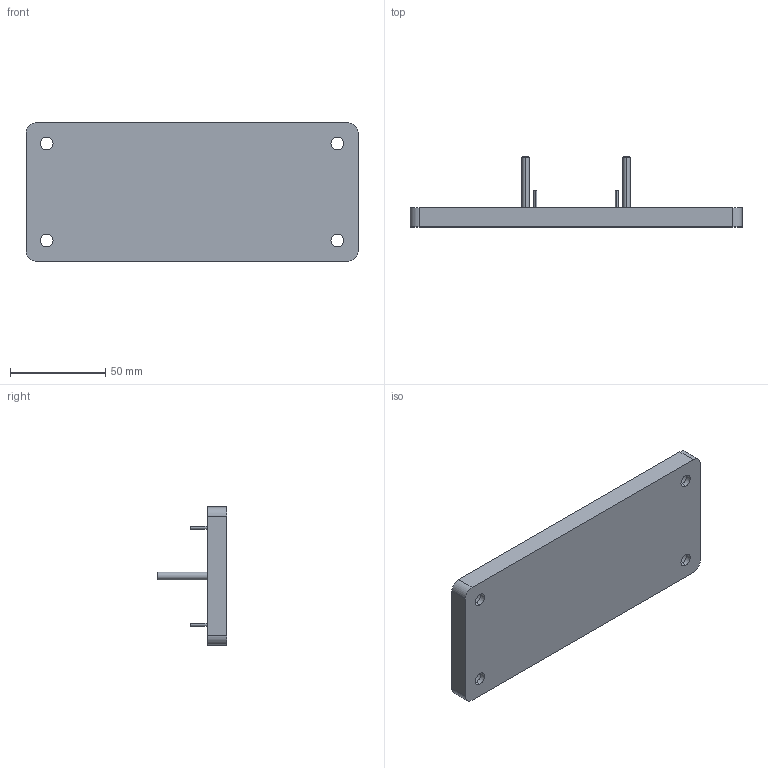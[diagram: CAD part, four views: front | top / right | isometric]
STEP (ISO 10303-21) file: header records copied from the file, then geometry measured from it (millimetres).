
FILE_DESCRIPTION (( 'STEP AP214' ), '1' );
FILE_NAME ('GM3 Press In Fixturing Design Dowel Base.STEP', '2022-03-08T19:59:52', ( '' ), ( '' ), 'SwSTEP 2.0', 'SolidWorks 2018', '' );
FILE_SCHEMA (( 'AUTOMOTIVE_DESIGN' ));
Length unit declared in the file: millimetre
Products named in the file (4): GM3 Press-In Fixture - Base; GM3 Press In Fixturing Design Dowel Base; 98381A491_Dowel Pin_98381A491; 98381A420_Dowel Pin_98381A420
Assembly tree (7 placements, depth 2):
  GM3 Press In Fixturing Design Dowel Base
    GM3 Press-In Fixture - Base
    98381A420_Dowel Pin_98381A420  x4
    98381A491_Dowel Pin_98381A491  x2
Bounding box: 174 x 36.67 x 72.4 mm (x, y, z)
Volume: 120529.1 mm3; surface area: 36790.2 mm2
Topology: 7 solids, 7 shells, 597 faces, 1194 edges, 788 vertices
Faces by surface type: cylinder 378, plane 195, cone 24
Entity records: 15318 total; most frequent: DIRECTION 3036, CARTESIAN_POINT 2469, ORIENTED_EDGE 2276, AXIS2_PLACEMENT_3D 1323, EDGE_CURVE 1138, VERTEX_POINT 756, EDGE_LOOP 750, CIRCLE 748
